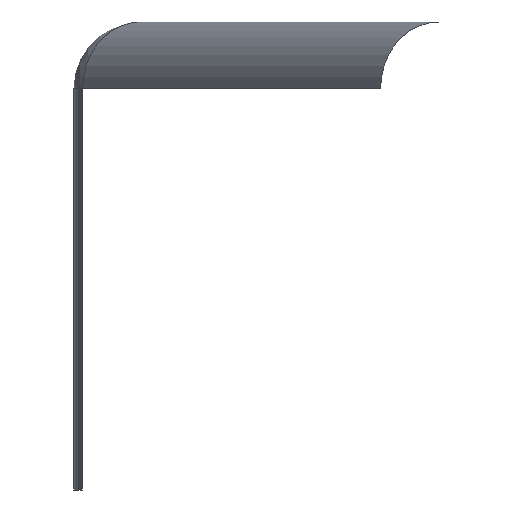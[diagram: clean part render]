
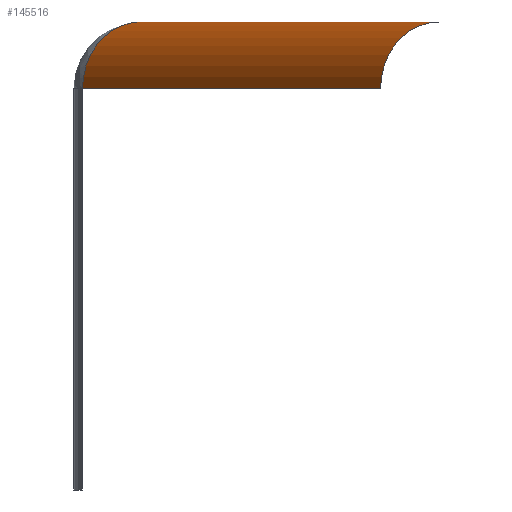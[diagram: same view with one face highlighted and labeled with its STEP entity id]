
A CAD part, left-side view. The second image highlights one B-rep face of the part: STEP entity #145516.
In plain terms, the highlighted cylindrical face has radius 1 mm (diameter 2 mm), a partial arc.
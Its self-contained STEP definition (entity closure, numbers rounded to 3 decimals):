
#1224 = DIRECTION ( 'NONE',  ( 0.866, 0.5, 0. ) ) ;
#4254 = CYLINDRICAL_SURFACE ( 'NONE', #253751, 1. ) ;
#11388 = CARTESIAN_POINT ( 'NONE',  ( 55.019, 467.459, -2038.192 ) ) ;
#37845 = DIRECTION ( 'NONE',  ( -0.5, 0.866, 0. ) ) ;
#45107 = CARTESIAN_POINT ( 'NONE',  ( 47.297, 463., -2038.192 ) ) ;
#53603 = CARTESIAN_POINT ( 'NONE',  ( 47.297, 463., -2037.192 ) ) ;
#70209 = ORIENTED_EDGE ( 'NONE', *, *, #123081, .F. ) ;
#71477 = DIRECTION ( 'NONE',  ( 0.5, -0.866, 0. ) ) ;
#75597 = CARTESIAN_POINT ( 'NONE',  ( 46.797, 463.866, -2038.192 ) ) ;
#77129 = CARTESIAN_POINT ( 'NONE',  ( 55.019, 467.459, -2037.192 ) ) ;
#82394 = FACE_OUTER_BOUND ( 'NONE', #163351, .T. ) ;
#82597 = VERTEX_POINT ( 'NONE', #75597 ) ;
#88426 = LINE ( 'NONE', #158538, #228131 ) ;
#91351 = VERTEX_POINT ( 'NONE', #53603 ) ;
#103245 = CIRCLE ( 'NONE', #324808, 1. ) ;
#123081 = EDGE_CURVE ( 'NONE', #91351, #82597, #334244, .T. ) ;
#136340 = VERTEX_POINT ( 'NONE', #318768 ) ;
#145516 = ADVANCED_FACE ( 'NONE', ( #82394 ), #4254, .T. ) ;
#150535 = CARTESIAN_POINT ( 'NONE',  ( -188.661, 326.77, -2037.192 ) ) ;
#158538 = CARTESIAN_POINT ( 'NONE',  ( 55.019, 468.614, -2038.192 ) ) ;
#159002 = ORIENTED_EDGE ( 'NONE', *, *, #217448, .F. ) ;
#163351 = EDGE_LOOP ( 'NONE', ( #267158, #159002, #70209, #213134 ) ) ;
#165451 = AXIS2_PLACEMENT_3D ( 'NONE', #45107, #228723, #71477 ) ;
#172499 = VECTOR ( 'NONE', #176899, 1000 ) ;
#176899 = DIRECTION ( 'NONE',  ( -0.866, -0.5, 0. ) ) ;
#195114 = DIRECTION ( 'NONE',  ( -0.866, -0.5, 0. ) ) ;
#213134 = ORIENTED_EDGE ( 'NONE', *, *, #255446, .F. ) ;
#217448 = EDGE_CURVE ( 'NONE', #82597, #136340, #88426, .T. ) ;
#221852 = DIRECTION ( 'NONE',  ( -0.866, -0.5, 0. ) ) ;
#228131 = VECTOR ( 'NONE', #1224, 1000 ) ;
#228723 = DIRECTION ( 'NONE',  ( -0.866, -0.5, 0. ) ) ;
#248238 = DIRECTION ( 'NONE',  ( 0.5, -0.866, 0. ) ) ;
#253751 = AXIS2_PLACEMENT_3D ( 'NONE', #300006, #221852, #248238 ) ;
#255446 = EDGE_CURVE ( 'NONE', #313616, #91351, #295869, .T. ) ;
#267158 = ORIENTED_EDGE ( 'NONE', *, *, #280069, .T. ) ;
#280069 = EDGE_CURVE ( 'NONE', #313616, #136340, #103245, .T. ) ;
#295869 = LINE ( 'NONE', #150535, #172499 ) ;
#300006 = CARTESIAN_POINT ( 'NONE',  ( -188.661, 326.77, -2038.192 ) ) ;
#313616 = VERTEX_POINT ( 'NONE', #77129 ) ;
#318768 = CARTESIAN_POINT ( 'NONE',  ( 54.519, 468.325, -2038.192 ) ) ;
#324808 = AXIS2_PLACEMENT_3D ( 'NONE', #11388, #195114, #37845 ) ;
#334244 = CIRCLE ( 'NONE', #165451, 1. ) ;
